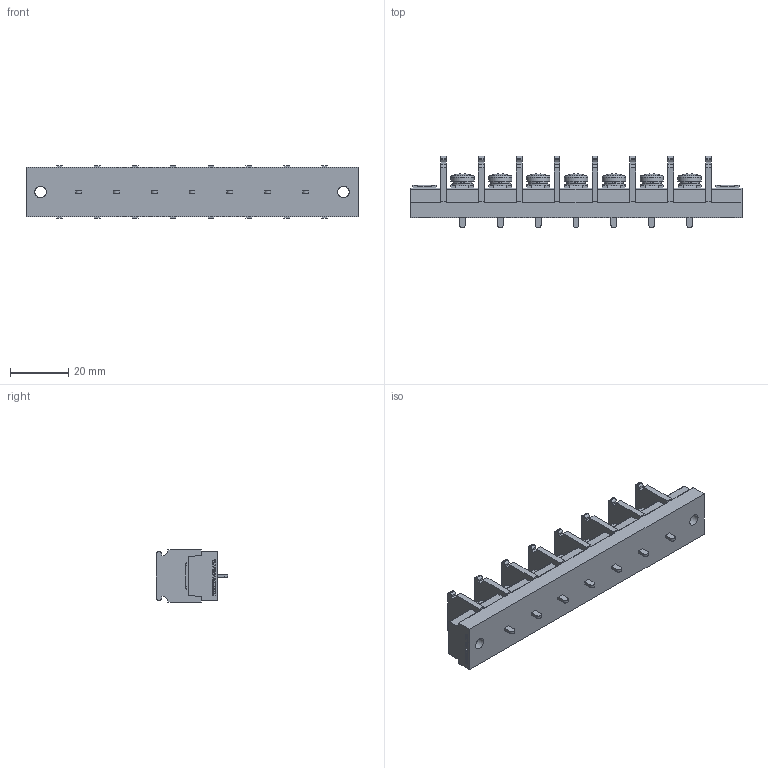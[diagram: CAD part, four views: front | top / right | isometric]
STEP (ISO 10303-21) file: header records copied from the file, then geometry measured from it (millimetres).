
FILE_DESCRIPTION(/* description */ ('Alibre Inc.'),/* implementation_level */ '2;1');
FILE_NAME(/* name */ 'export0',/* time_stamp */ '2016-08-02T19:25:25+09:00',/* author */ (''),/* organization */ (''),/* preprocessor_version */ 'ST-DEVELOPER v14',/* originating_system */ 'Alibre',/* authorisation */ '');
FILE_SCHEMA (('CONFIG_CONTROL_DESIGN'));
Length unit declared in the file: centimetre
Products named in the file (1): ID_1
Bounding box: 114 x 24.5 x 18 mm (x, y, z)
Volume: 22403.2 mm3; surface area: 11852.2 mm2
Topology: 1 solids, 40 shells, 1405 faces, 3705 edges, 2450 vertices
Faces by surface type: plane 1016, bspline 208, cylinder 132, cone 35, sphere 7, torus 7
Full cylindrical faces by diameter (mm): 4 x11, 6.5 x7, 7.7 x7, 8 x7
Entity records: 41500 total; most frequent: CARTESIAN_POINT 9447, ORIENTED_EDGE 7282, DIRECTION 4890, EDGE_CURVE 3641, VECTOR 2656, LINE 2656, VERTEX_POINT 2425, AXIS2_PLACEMENT_3D 1590
